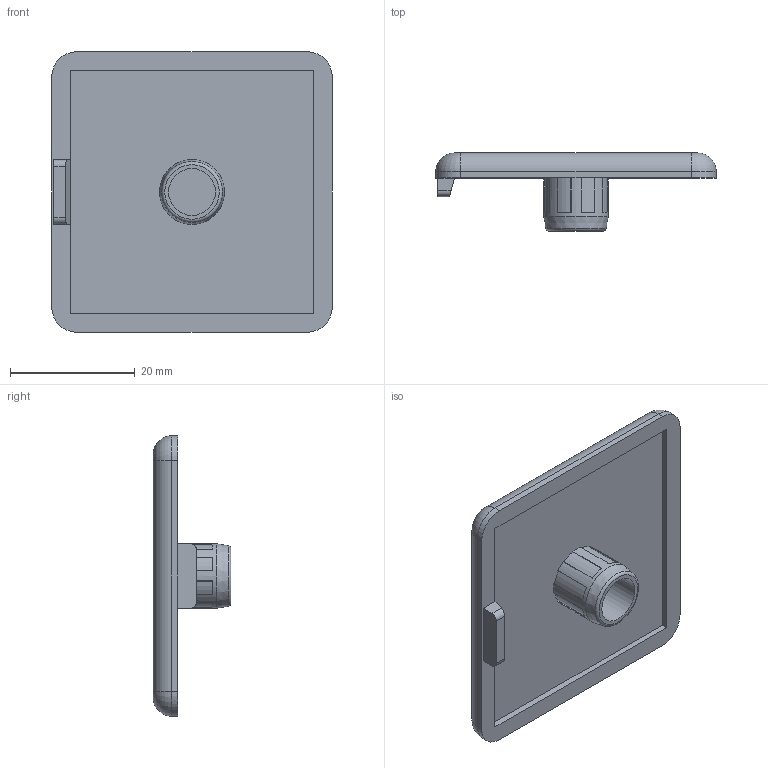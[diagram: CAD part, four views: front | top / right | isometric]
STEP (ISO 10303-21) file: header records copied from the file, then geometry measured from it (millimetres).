
FILE_DESCRIPTION(/* description */ ('STEP AP203'),/* implementation_level */ '2;1');
FILE_NAME(/* name */ '091011S03',/* time_stamp */ '2023-06-28T12:18:00+02:00',/* author */ ('License CC BY-ND 4.0'),/* organization */ ('CADENAS'),/* preprocessor_version */ 'ST-DEVELOPER v19.3',/* originating_system */ 'PARTsolutions',/* authorisation */ ' ');
FILE_SCHEMA (('CONFIG_CONTROL_DESIGN'));
Length unit declared in the file: millimetre
Products named in the file (1): 091011S03
Bounding box: 45 x 12.5 x 45 mm (x, y, z)
Volume: 6621.3 mm3; surface area: 5247 mm2
Topology: 1 solids, 1 shells, 68 faces, 177 edges, 114 vertices
Faces by surface type: plane 42, cylinder 20, torus 5, cone 1
Full cylindrical faces by diameter (mm): 7.5 x1, 10.4 x1
Entity records: 2087 total; most frequent: DIRECTION 371, CARTESIAN_POINT 354, ORIENTED_EDGE 344, EDGE_CURVE 172, AXIS2_PLACEMENT_3D 130, VERTEX_POINT 113, LINE 111, VECTOR 111
